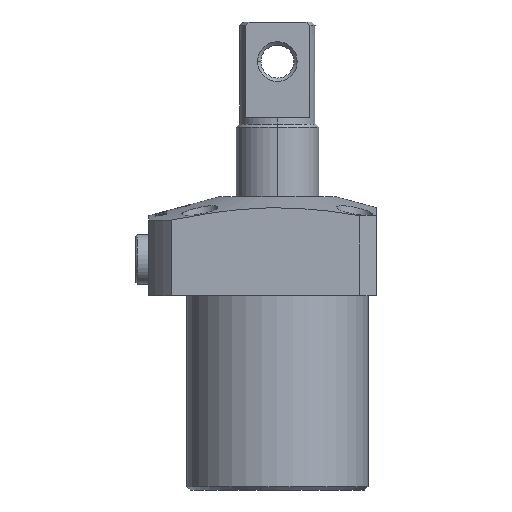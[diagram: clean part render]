
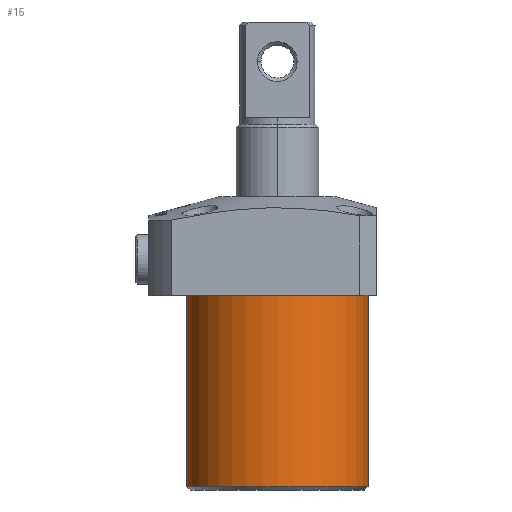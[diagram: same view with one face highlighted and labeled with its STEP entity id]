
A CAD part, front view. The second image highlights one B-rep face of the part: STEP entity #15.
In plain terms, the highlighted cylindrical face has radius 27.5 mm (diameter 55 mm), a partial arc.
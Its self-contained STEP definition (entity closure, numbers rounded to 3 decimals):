
#15 = ADVANCED_FACE ( 'NONE', ( #12922 ), #255, .T. ) ;
#235 = ORIENTED_EDGE ( 'NONE', *, *, #6952, .T. ) ;
#255 = CYLINDRICAL_SURFACE ( 'NONE', #12854, 27.5 ) ;
#505 = CIRCLE ( 'NONE', #2014, 27.5 ) ;
#827 = DIRECTION ( 'NONE',  ( 1., 0., 0. ) ) ;
#1216 = ORIENTED_EDGE ( 'NONE', *, *, #8834, .T. ) ;
#1478 = EDGE_CURVE ( 'NONE', #6951, #4057, #11953, .T. ) ;
#1702 = DIRECTION ( 'NONE',  ( 0., 0., 1. ) ) ;
#2014 = AXIS2_PLACEMENT_3D ( 'NONE', #3337, #9451, #2310 ) ;
#2260 = VERTEX_POINT ( 'NONE', #3264 ) ;
#2310 = DIRECTION ( 'NONE',  ( -1., 0., 0. ) ) ;
#3264 = CARTESIAN_POINT ( 'NONE',  ( 27.5, 0., -58. ) ) ;
#3287 = LINE ( 'NONE', #12445, #8875 ) ;
#3337 = CARTESIAN_POINT ( 'NONE',  ( 0., 0., 0. ) ) ;
#4057 = VERTEX_POINT ( 'NONE', #11890 ) ;
#4296 = DIRECTION ( 'NONE',  ( 0., 0., 1. ) ) ;
#4453 = CIRCLE ( 'NONE', #14419, 27.5 ) ;
#4458 = EDGE_LOOP ( 'NONE', ( #7672, #12087, #1216, #235 ) ) ;
#4845 = DIRECTION ( 'NONE',  ( 0., 0., 1. ) ) ;
#4897 = EDGE_CURVE ( 'NONE', #6951, #2260, #4453, .T. ) ;
#5500 = DIRECTION ( 'NONE',  ( 0., 0., 1. ) ) ;
#5651 = VECTOR ( 'NONE', #4845, 1000. ) ;
#6951 = VERTEX_POINT ( 'NONE', #10324 ) ;
#6952 = EDGE_CURVE ( 'NONE', #11408, #4057, #505, .T. ) ;
#7672 = ORIENTED_EDGE ( 'NONE', *, *, #1478, .F. ) ;
#8834 = EDGE_CURVE ( 'NONE', #2260, #11408, #3287, .T. ) ;
#8875 = VECTOR ( 'NONE', #1702, 1000. ) ;
#9451 = DIRECTION ( 'NONE',  ( 0., 0., -1. ) ) ;
#9843 = CARTESIAN_POINT ( 'NONE',  ( 27.5, 0., 0. ) ) ;
#10324 = CARTESIAN_POINT ( 'NONE',  ( -27.5, 0., -58. ) ) ;
#10364 = CARTESIAN_POINT ( 'NONE',  ( 0., 0., -59. ) ) ;
#11408 = VERTEX_POINT ( 'NONE', #9843 ) ;
#11890 = CARTESIAN_POINT ( 'NONE',  ( -27.5, 0., 0. ) ) ;
#11953 = LINE ( 'NONE', #13174, #5651 ) ;
#12087 = ORIENTED_EDGE ( 'NONE', *, *, #4897, .T. ) ;
#12445 = CARTESIAN_POINT ( 'NONE',  ( 27.5, 0., -59. ) ) ;
#12621 = CARTESIAN_POINT ( 'NONE',  ( 0., 0., -58. ) ) ;
#12854 = AXIS2_PLACEMENT_3D ( 'NONE', #10364, #4296, #827 ) ;
#12922 = FACE_OUTER_BOUND ( 'NONE', #4458, .T. ) ;
#13174 = CARTESIAN_POINT ( 'NONE',  ( -27.5, 0., -59. ) ) ;
#13852 = DIRECTION ( 'NONE',  ( -1., 0., 0. ) ) ;
#14419 = AXIS2_PLACEMENT_3D ( 'NONE', #12621, #5500, #13852 ) ;
